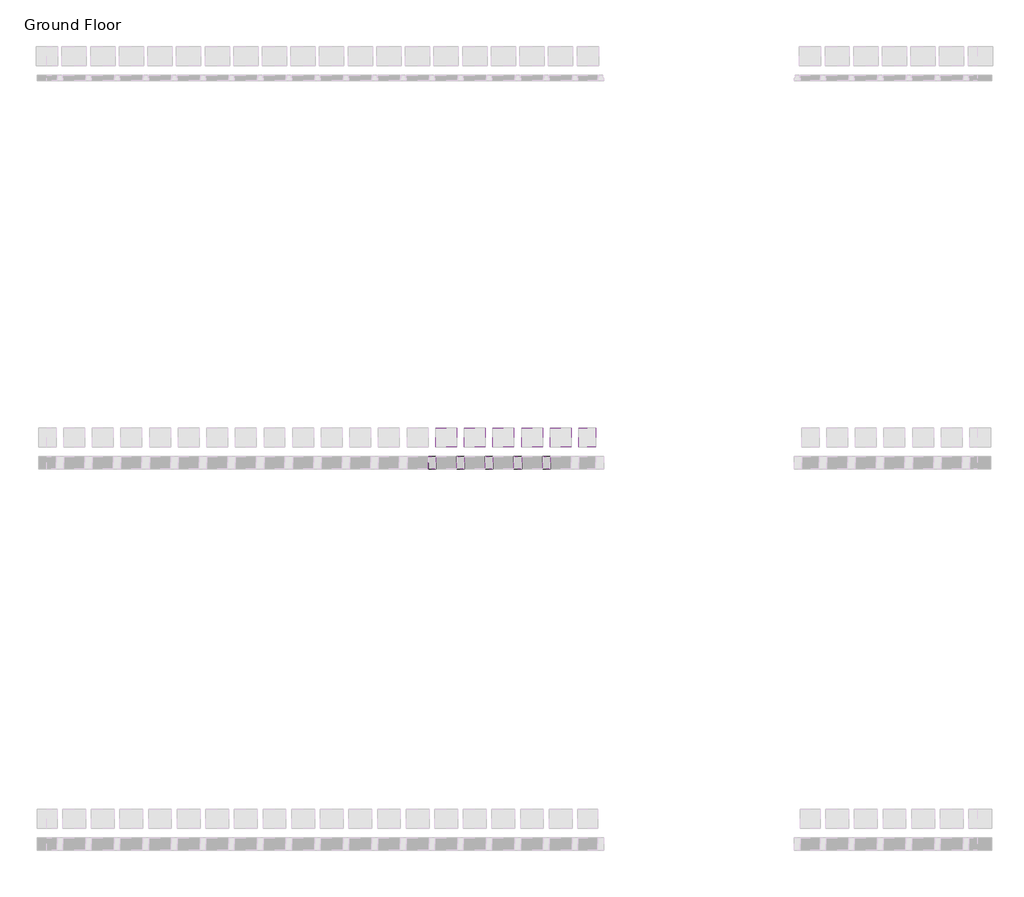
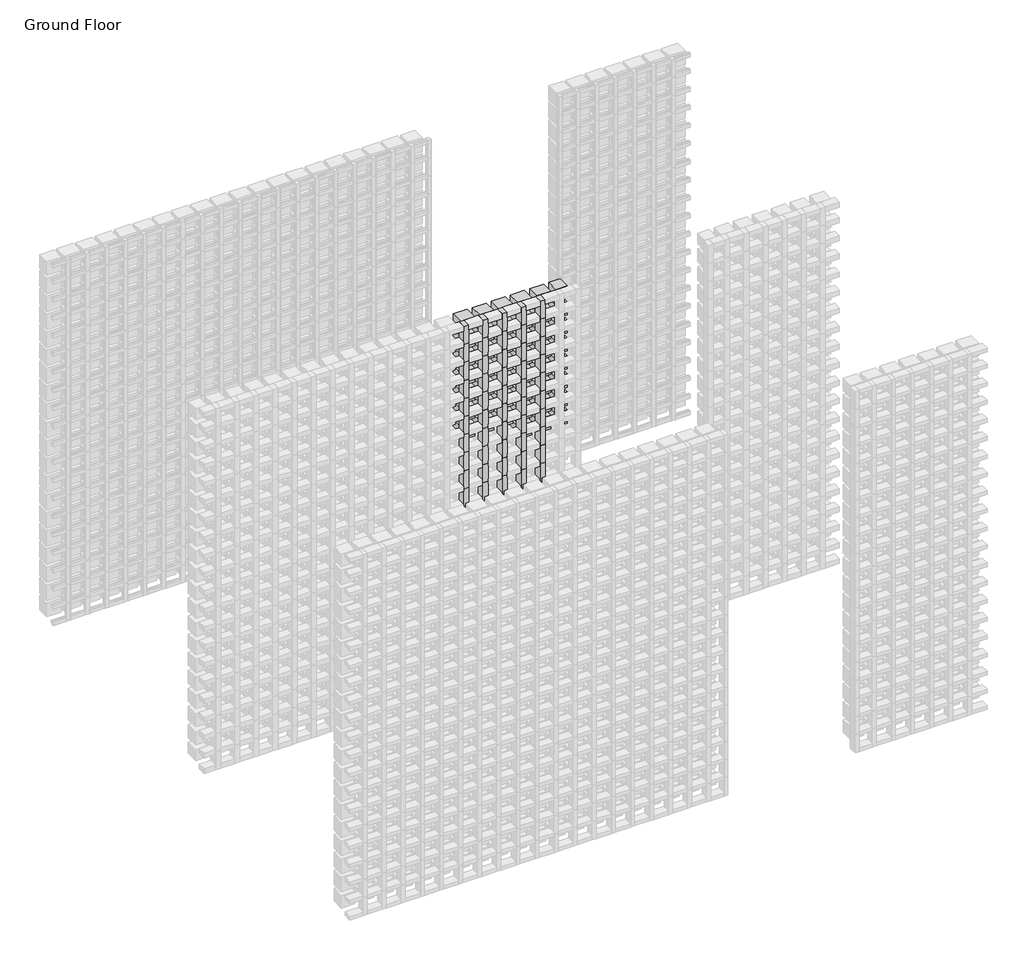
# One storey, part 92 of 350: 97 members, 45 plates.
"""IFC4 building model written with IfcOpenShell, lengths in millimetres."""

from ifc_helpers import new_model, si_unit, origin, place, context, project, spatial, transform, mapped, element, save
from components import rectangular_mullion_655930e9, empty_system_panel_empty_571a4fa0, empty_system_panel_empty_3b500fad, empty_system_panel_empty_1faefc6a, empty_system_panel_empty_b6d7d726

model = new_model("IFC4")

# Units and contexts
model_context = context("Model", 3, world=origin())
ifc_project = project(units=[si_unit("LENGTHUNIT", "METRE", prefix="MILLI")], contexts=[model_context])

# Site, building, storey
site = spatial("IfcSite", under=ifc_project)
building = spatial("IfcBuilding", under=site)
storey = spatial("IfcBuildingStorey", under=building, Name="Ground Floor", Elevation=0.0)

# Members
placement = place(None, origin())
rectangular_mullion_shape = rectangular_mullion_655930e9(model_context)
element("IfcMember", 1, ObjectType="Rectangular Mullion : Batten_Timber_Modinex_Austratus_Grid_Fascia_40x65_AlaskanYellowCedar", at=placement, inside=storey, context=model_context, shape_type="MappedRepresentation", body=[
    mapped(rectangular_mullion_shape, transform((4016.4361642, 40968.2978302, 150.0), x_axis=(1.0, 0.0, 0.0), y_axis=(0.0, -1.0, 0.0), z_axis=(0.0, 0.0, -1.0))),
])
element("IfcMember", 2, ObjectType="Rectangular Mullion : Batten_Timber_Modinex_Austratus_Grid_Fascia_40x65_AlaskanYellowCedar", at=placement, inside=storey, context=model_context, shape_type="MappedRepresentation", body=[
    mapped(rectangular_mullion_shape, transform((4016.4361642, 40968.2978302, 300.0), x_axis=(1.0, 0.0, 0.0), y_axis=(0.0, -1.0, 0.0), z_axis=(0.0, 0.0, -1.0))),
])
element("IfcMember", 3, ObjectType="Rectangular Mullion : Batten_Timber_Modinex_Austratus_Grid_Fascia_40x65_AlaskanYellowCedar", at=placement, inside=storey, context=model_context, shape_type="MappedRepresentation", body=[
    mapped(rectangular_mullion_shape, transform((4016.4361642, 40968.2978302, 450.0), x_axis=(1.0, 0.0, 0.0), y_axis=(0.0, -1.0, 0.0), z_axis=(0.0, 0.0, -1.0))),
])
element("IfcMember", 4, ObjectType="Rectangular Mullion : Batten_Timber_Modinex_Austratus_Grid_Fascia_40x65_AlaskanYellowCedar", at=placement, inside=storey, context=model_context, shape_type="MappedRepresentation", body=[
    mapped(rectangular_mullion_shape, transform((4016.4361642, 40968.2978302, 600.0), x_axis=(1.0, 0.0, 0.0), y_axis=(0.0, -1.0, 0.0), z_axis=(0.0, 0.0, -1.0))),
])
element("IfcMember", 5, ObjectType="Rectangular Mullion : Batten_Timber_Modinex_Austratus_Grid_Fascia_40x65_AlaskanYellowCedar", at=placement, inside=storey, context=model_context, shape_type="MappedRepresentation", body=[
    mapped(rectangular_mullion_shape, transform((4016.4361642, 40968.2978302, 750.0), x_axis=(1.0, 0.0, 0.0), y_axis=(0.0, -1.0, 0.0), z_axis=(0.0, 0.0, -1.0))),
])
element("IfcMember", 6, ObjectType="Rectangular Mullion : Batten_Timber_Modinex_Austratus_Grid_Fascia_40x65_AlaskanYellowCedar", at=placement, inside=storey, context=model_context, shape_type="MappedRepresentation", body=[
    mapped(rectangular_mullion_shape, transform((4016.4361642, 40968.2978302, 900.0), x_axis=(1.0, 0.0, 0.0), y_axis=(0.0, -1.0, 0.0), z_axis=(0.0, 0.0, -1.0))),
])
element("IfcMember", 7, ObjectType="Rectangular Mullion : Batten_Timber_Modinex_Austratus_Grid_Fascia_40x65_AlaskanYellowCedar", at=placement, inside=storey, context=model_context, shape_type="MappedRepresentation", body=[
    mapped(rectangular_mullion_shape, transform((4016.4361642, 40968.2978302, 1050.0), x_axis=(1.0, 0.0, 0.0), y_axis=(0.0, -1.0, 0.0), z_axis=(0.0, 0.0, -1.0))),
])
element("IfcMember", 8, ObjectType="Rectangular Mullion : Batten_Timber_Modinex_Austratus_Grid_Fascia_40x65_AlaskanYellowCedar", at=placement, inside=storey, context=model_context, shape_type="MappedRepresentation", body=[
    mapped(rectangular_mullion_shape, transform((4016.4361642, 40968.2978302, 1200.0), x_axis=(1.0, 0.0, 0.0), y_axis=(0.0, -1.0, 0.0), z_axis=(0.0, 0.0, -1.0))),
])
element("IfcMember", 9, ObjectType="Rectangular Mullion : Batten_Timber_Modinex_Austratus_Grid_Fascia_40x65_AlaskanYellowCedar", at=placement, inside=storey, context=model_context, shape_type="MappedRepresentation", body=[
    mapped(rectangular_mullion_shape, transform((4016.4361642, 40968.2978302, 1350.0), x_axis=(1.0, 0.0, 0.0), y_axis=(0.0, -1.0, 0.0), z_axis=(0.0, 0.0, -1.0))),
])
element("IfcMember", 10, ObjectType="Rectangular Mullion : Batten_Timber_Modinex_Austratus_Grid_Fascia_40x65_AlaskanYellowCedar", at=placement, inside=storey, context=model_context, shape_type="MappedRepresentation", body=[
    mapped(rectangular_mullion_shape, transform((4016.4361642, 40968.2978302, 1500.0), x_axis=(1.0, 0.0, 0.0), y_axis=(0.0, -1.0, 0.0), z_axis=(0.0, 0.0, -1.0))),
])
element("IfcMember", 11, ObjectType="Rectangular Mullion : Batten_Timber_Modinex_Austratus_Grid_Fascia_40x65_AlaskanYellowCedar", at=placement, inside=storey, context=model_context, shape_type="MappedRepresentation", body=[
    mapped(rectangular_mullion_shape, transform((4016.4361642, 40968.2978302, 1650.0), x_axis=(1.0, 0.0, 0.0), y_axis=(0.0, -1.0, 0.0), z_axis=(0.0, 0.0, -1.0))),
])
element("IfcMember", 12, ObjectType="Rectangular Mullion : Batten_Timber_Modinex_Austratus_Grid_Fascia_40x65_AlaskanYellowCedar", at=placement, inside=storey, context=model_context, shape_type="MappedRepresentation", body=[
    mapped(rectangular_mullion_shape, transform((4016.4361642, 40968.2978302, 1800.0), x_axis=(1.0, 0.0, 0.0), y_axis=(0.0, -1.0, 0.0), z_axis=(0.0, 0.0, -1.0))),
])
element("IfcMember", 13, ObjectType="Rectangular Mullion : Batten_Timber_Modinex_Austratus_Grid_Fascia_40x65_AlaskanYellowCedar", at=placement, inside=storey, context=model_context, shape_type="MappedRepresentation", body=[
    mapped(rectangular_mullion_shape, transform((4016.4361642, 40968.2978302, 1950.0), x_axis=(1.0, 0.0, 0.0), y_axis=(0.0, -1.0, 0.0), z_axis=(0.0, 0.0, -1.0))),
])
element("IfcMember", 14, ObjectType="Rectangular Mullion : Batten_Timber_Modinex_Austratus_Grid_Fascia_40x65_AlaskanYellowCedar", at=placement, inside=storey, context=model_context, shape_type="MappedRepresentation", body=[
    mapped(rectangular_mullion_shape, transform((4016.4361642, 40968.2978302, 2100.0), x_axis=(1.0, 0.0, 0.0), y_axis=(0.0, -1.0, 0.0), z_axis=(0.0, 0.0, -1.0))),
])
element("IfcMember", 15, ObjectType="Rectangular Mullion : Batten_Timber_Modinex_Austratus_Grid_Fascia_40x65_AlaskanYellowCedar", at=placement, inside=storey, context=model_context, shape_type="MappedRepresentation", body=[
    mapped(rectangular_mullion_shape, transform((4016.4361642, 40968.2978302, 2250.0), x_axis=(1.0, 0.0, 0.0), y_axis=(0.0, -1.0, 0.0), z_axis=(0.0, 0.0, -1.0))),
])
element("IfcMember", 16, ObjectType="Rectangular Mullion : Batten_Timber_Modinex_Austratus_Grid_Fascia_40x65_AlaskanYellowCedar", at=placement, inside=storey, context=model_context, shape_type="MappedRepresentation", body=[
    mapped(rectangular_mullion_shape, transform((4016.4361642, 40968.2978302, 2400.0), x_axis=(1.0, 0.0, 0.0), y_axis=(0.0, -1.0, 0.0), z_axis=(0.0, 0.0, -1.0))),
])
element("IfcMember", 17, ObjectType="Rectangular Mullion : Batten_Timber_Modinex_Austratus_Grid_Fascia_40x65_AlaskanYellowCedar", at=placement, inside=storey, context=model_context, shape_type="MappedRepresentation", body=[
    mapped(rectangular_mullion_shape, transform((4016.4361642, 40968.2978302, 2550.0), x_axis=(1.0, 0.0, 0.0), y_axis=(0.0, -1.0, 0.0), z_axis=(0.0, 0.0, -1.0))),
])
element("IfcMember", 18, ObjectType="Rectangular Mullion : Batten_Timber_Modinex_Austratus_Grid_Fascia_40x65_AlaskanYellowCedar", at=placement, inside=storey, context=model_context, shape_type="MappedRepresentation", body=[
    mapped(rectangular_mullion_shape, transform((4016.4361642, 40968.2978302, 2700.0), x_axis=(1.0, 0.0, 0.0), y_axis=(0.0, -1.0, 0.0), z_axis=(0.0, 0.0, -1.0))),
])
element("IfcMember", 19, ObjectType="Rectangular Mullion : Batten_Timber_Modinex_Austratus_Grid_Fascia_40x65_AlaskanYellowCedar", at=placement, inside=storey, context=model_context, shape_type="MappedRepresentation", body=[
    mapped(rectangular_mullion_shape, transform((4166.4361642, 40968.2978302, 150.0), x_axis=(1.0, 0.0, 0.0), y_axis=(0.0, -1.0, 0.0), z_axis=(0.0, 0.0, -1.0))),
])
element("IfcMember", 20, ObjectType="Rectangular Mullion : Batten_Timber_Modinex_Austratus_Grid_Fascia_40x65_AlaskanYellowCedar", at=placement, inside=storey, context=model_context, shape_type="MappedRepresentation", body=[
    mapped(rectangular_mullion_shape, transform((4166.4361642, 40968.2978302, 300.0), x_axis=(1.0, 0.0, 0.0), y_axis=(0.0, -1.0, 0.0), z_axis=(0.0, 0.0, -1.0))),
])
element("IfcMember", 21, ObjectType="Rectangular Mullion : Batten_Timber_Modinex_Austratus_Grid_Fascia_40x65_AlaskanYellowCedar", at=placement, inside=storey, context=model_context, shape_type="MappedRepresentation", body=[
    mapped(rectangular_mullion_shape, transform((4166.4361642, 40968.2978302, 450.0), x_axis=(1.0, 0.0, 0.0), y_axis=(0.0, -1.0, 0.0), z_axis=(0.0, 0.0, -1.0))),
])
element("IfcMember", 22, ObjectType="Rectangular Mullion : Batten_Timber_Modinex_Austratus_Grid_Fascia_40x65_AlaskanYellowCedar", at=placement, inside=storey, context=model_context, shape_type="MappedRepresentation", body=[
    mapped(rectangular_mullion_shape, transform((4166.4361642, 40968.2978302, 600.0), x_axis=(1.0, 0.0, 0.0), y_axis=(0.0, -1.0, 0.0), z_axis=(0.0, 0.0, -1.0))),
])
element("IfcMember", 23, ObjectType="Rectangular Mullion : Batten_Timber_Modinex_Austratus_Grid_Fascia_40x65_AlaskanYellowCedar", at=placement, inside=storey, context=model_context, shape_type="MappedRepresentation", body=[
    mapped(rectangular_mullion_shape, transform((4166.4361642, 40968.2978302, 750.0), x_axis=(1.0, 0.0, 0.0), y_axis=(0.0, -1.0, 0.0), z_axis=(0.0, 0.0, -1.0))),
])
element("IfcMember", 24, ObjectType="Rectangular Mullion : Batten_Timber_Modinex_Austratus_Grid_Fascia_40x65_AlaskanYellowCedar", at=placement, inside=storey, context=model_context, shape_type="MappedRepresentation", body=[
    mapped(rectangular_mullion_shape, transform((4166.4361642, 40968.2978302, 900.0), x_axis=(1.0, 0.0, 0.0), y_axis=(0.0, -1.0, 0.0), z_axis=(0.0, 0.0, -1.0))),
])
element("IfcMember", 25, ObjectType="Rectangular Mullion : Batten_Timber_Modinex_Austratus_Grid_Fascia_40x65_AlaskanYellowCedar", at=placement, inside=storey, context=model_context, shape_type="MappedRepresentation", body=[
    mapped(rectangular_mullion_shape, transform((4166.4361642, 40968.2978302, 1050.0), x_axis=(1.0, 0.0, 0.0), y_axis=(0.0, -1.0, 0.0), z_axis=(0.0, 0.0, -1.0))),
])
element("IfcMember", 26, ObjectType="Rectangular Mullion : Batten_Timber_Modinex_Austratus_Grid_Fascia_40x65_AlaskanYellowCedar", at=placement, inside=storey, context=model_context, shape_type="MappedRepresentation", body=[
    mapped(rectangular_mullion_shape, transform((4166.4361642, 40968.2978302, 1200.0), x_axis=(1.0, 0.0, 0.0), y_axis=(0.0, -1.0, 0.0), z_axis=(0.0, 0.0, -1.0))),
])
element("IfcMember", 27, ObjectType="Rectangular Mullion : Batten_Timber_Modinex_Austratus_Grid_Fascia_40x65_AlaskanYellowCedar", at=placement, inside=storey, context=model_context, shape_type="MappedRepresentation", body=[
    mapped(rectangular_mullion_shape, transform((4166.4361642, 40968.2978302, 1350.0), x_axis=(1.0, 0.0, 0.0), y_axis=(0.0, -1.0, 0.0), z_axis=(0.0, 0.0, -1.0))),
])
element("IfcMember", 28, ObjectType="Rectangular Mullion : Batten_Timber_Modinex_Austratus_Grid_Fascia_40x65_AlaskanYellowCedar", at=placement, inside=storey, context=model_context, shape_type="MappedRepresentation", body=[
    mapped(rectangular_mullion_shape, transform((4166.4361642, 40968.2978302, 1500.0), x_axis=(1.0, 0.0, 0.0), y_axis=(0.0, -1.0, 0.0), z_axis=(0.0, 0.0, -1.0))),
])
element("IfcMember", 29, ObjectType="Rectangular Mullion : Batten_Timber_Modinex_Austratus_Grid_Fascia_40x65_AlaskanYellowCedar", at=placement, inside=storey, context=model_context, shape_type="MappedRepresentation", body=[
    mapped(rectangular_mullion_shape, transform((4166.4361642, 40968.2978302, 1650.0), x_axis=(1.0, 0.0, 0.0), y_axis=(0.0, -1.0, 0.0), z_axis=(0.0, 0.0, -1.0))),
])
element("IfcMember", 30, ObjectType="Rectangular Mullion : Batten_Timber_Modinex_Austratus_Grid_Fascia_40x65_AlaskanYellowCedar", at=placement, inside=storey, context=model_context, shape_type="MappedRepresentation", body=[
    mapped(rectangular_mullion_shape, transform((4166.4361642, 40968.2978302, 1800.0), x_axis=(1.0, 0.0, 0.0), y_axis=(0.0, -1.0, 0.0), z_axis=(0.0, 0.0, -1.0))),
])
element("IfcMember", 31, ObjectType="Rectangular Mullion : Batten_Timber_Modinex_Austratus_Grid_Fascia_40x65_AlaskanYellowCedar", at=placement, inside=storey, context=model_context, shape_type="MappedRepresentation", body=[
    mapped(rectangular_mullion_shape, transform((4166.4361642, 40968.2978302, 1950.0), x_axis=(1.0, 0.0, 0.0), y_axis=(0.0, -1.0, 0.0), z_axis=(0.0, 0.0, -1.0))),
])
element("IfcMember", 32, ObjectType="Rectangular Mullion : Batten_Timber_Modinex_Austratus_Grid_Fascia_40x65_AlaskanYellowCedar", at=placement, inside=storey, context=model_context, shape_type="MappedRepresentation", body=[
    mapped(rectangular_mullion_shape, transform((4166.4361642, 40968.2978302, 2100.0), x_axis=(1.0, 0.0, 0.0), y_axis=(0.0, -1.0, 0.0), z_axis=(0.0, 0.0, -1.0))),
])
element("IfcMember", 33, ObjectType="Rectangular Mullion : Batten_Timber_Modinex_Austratus_Grid_Fascia_40x65_AlaskanYellowCedar", at=placement, inside=storey, context=model_context, shape_type="MappedRepresentation", body=[
    mapped(rectangular_mullion_shape, transform((4166.4361642, 40968.2978302, 2250.0), x_axis=(1.0, 0.0, 0.0), y_axis=(0.0, -1.0, 0.0), z_axis=(0.0, 0.0, -1.0))),
])
element("IfcMember", 34, ObjectType="Rectangular Mullion : Batten_Timber_Modinex_Austratus_Grid_Fascia_40x65_AlaskanYellowCedar", at=placement, inside=storey, context=model_context, shape_type="MappedRepresentation", body=[
    mapped(rectangular_mullion_shape, transform((4166.4361642, 40968.2978302, 2400.0), x_axis=(1.0, 0.0, 0.0), y_axis=(0.0, -1.0, 0.0), z_axis=(0.0, 0.0, -1.0))),
])
element("IfcMember", 35, ObjectType="Rectangular Mullion : Batten_Timber_Modinex_Austratus_Grid_Fascia_40x65_AlaskanYellowCedar", at=placement, inside=storey, context=model_context, shape_type="MappedRepresentation", body=[
    mapped(rectangular_mullion_shape, transform((4166.4361642, 40968.2978302, 2550.0), x_axis=(1.0, 0.0, 0.0), y_axis=(0.0, -1.0, 0.0), z_axis=(0.0, 0.0, -1.0))),
])
element("IfcMember", 36, ObjectType="Rectangular Mullion : Batten_Timber_Modinex_Austratus_Grid_Fascia_40x65_AlaskanYellowCedar", at=placement, inside=storey, context=model_context, shape_type="MappedRepresentation", body=[
    mapped(rectangular_mullion_shape, transform((4166.4361642, 40968.2978302, 2700.0), x_axis=(1.0, 0.0, 0.0), y_axis=(0.0, -1.0, 0.0), z_axis=(0.0, 0.0, -1.0))),
])
element("IfcMember", 37, ObjectType="Rectangular Mullion : Batten_Timber_Modinex_Austratus_Grid_Fascia_40x65_AlaskanYellowCedar", at=placement, inside=storey, context=model_context, shape_type="MappedRepresentation", body=[
    mapped(rectangular_mullion_shape, transform((4316.4361642, 40968.2978302, 150.0), x_axis=(1.0, 0.0, 0.0), y_axis=(0.0, -1.0, 0.0), z_axis=(0.0, 0.0, -1.0))),
])
element("IfcMember", 38, ObjectType="Rectangular Mullion : Batten_Timber_Modinex_Austratus_Grid_Fascia_40x65_AlaskanYellowCedar", at=placement, inside=storey, context=model_context, shape_type="MappedRepresentation", body=[
    mapped(rectangular_mullion_shape, transform((4316.4361642, 40968.2978302, 300.0), x_axis=(1.0, 0.0, 0.0), y_axis=(0.0, -1.0, 0.0), z_axis=(0.0, 0.0, -1.0))),
])
element("IfcMember", 39, ObjectType="Rectangular Mullion : Batten_Timber_Modinex_Austratus_Grid_Fascia_40x65_AlaskanYellowCedar", at=placement, inside=storey, context=model_context, shape_type="MappedRepresentation", body=[
    mapped(rectangular_mullion_shape, transform((4316.4361642, 40968.2978302, 450.0), x_axis=(1.0, 0.0, 0.0), y_axis=(0.0, -1.0, 0.0), z_axis=(0.0, 0.0, -1.0))),
])
element("IfcMember", 40, ObjectType="Rectangular Mullion : Batten_Timber_Modinex_Austratus_Grid_Fascia_40x65_AlaskanYellowCedar", at=placement, inside=storey, context=model_context, shape_type="MappedRepresentation", body=[
    mapped(rectangular_mullion_shape, transform((4316.4361642, 40968.2978302, 600.0), x_axis=(1.0, 0.0, 0.0), y_axis=(0.0, -1.0, 0.0), z_axis=(0.0, 0.0, -1.0))),
])
element("IfcMember", 41, ObjectType="Rectangular Mullion : Batten_Timber_Modinex_Austratus_Grid_Fascia_40x65_AlaskanYellowCedar", at=placement, inside=storey, context=model_context, shape_type="MappedRepresentation", body=[
    mapped(rectangular_mullion_shape, transform((4316.4361642, 40968.2978302, 750.0), x_axis=(1.0, 0.0, 0.0), y_axis=(0.0, -1.0, 0.0), z_axis=(0.0, 0.0, -1.0))),
])
element("IfcMember", 42, ObjectType="Rectangular Mullion : Batten_Timber_Modinex_Austratus_Grid_Fascia_40x65_AlaskanYellowCedar", at=placement, inside=storey, context=model_context, shape_type="MappedRepresentation", body=[
    mapped(rectangular_mullion_shape, transform((4316.4361642, 40968.2978302, 900.0), x_axis=(1.0, 0.0, 0.0), y_axis=(0.0, -1.0, 0.0), z_axis=(0.0, 0.0, -1.0))),
])
element("IfcMember", 43, ObjectType="Rectangular Mullion : Batten_Timber_Modinex_Austratus_Grid_Fascia_40x65_AlaskanYellowCedar", at=placement, inside=storey, context=model_context, shape_type="MappedRepresentation", body=[
    mapped(rectangular_mullion_shape, transform((4316.4361642, 40968.2978302, 1050.0), x_axis=(1.0, 0.0, 0.0), y_axis=(0.0, -1.0, 0.0), z_axis=(0.0, 0.0, -1.0))),
])
element("IfcMember", 44, ObjectType="Rectangular Mullion : Batten_Timber_Modinex_Austratus_Grid_Fascia_40x65_AlaskanYellowCedar", at=placement, inside=storey, context=model_context, shape_type="MappedRepresentation", body=[
    mapped(rectangular_mullion_shape, transform((4316.4361642, 40968.2978302, 1200.0), x_axis=(1.0, 0.0, 0.0), y_axis=(0.0, -1.0, 0.0), z_axis=(0.0, 0.0, -1.0))),
])
element("IfcMember", 45, ObjectType="Rectangular Mullion : Batten_Timber_Modinex_Austratus_Grid_Fascia_40x65_AlaskanYellowCedar", at=placement, inside=storey, context=model_context, shape_type="MappedRepresentation", body=[
    mapped(rectangular_mullion_shape, transform((4316.4361642, 40968.2978302, 1350.0), x_axis=(1.0, 0.0, 0.0), y_axis=(0.0, -1.0, 0.0), z_axis=(0.0, 0.0, -1.0))),
])
element("IfcMember", 46, ObjectType="Rectangular Mullion : Batten_Timber_Modinex_Austratus_Grid_Fascia_40x65_AlaskanYellowCedar", at=placement, inside=storey, context=model_context, shape_type="MappedRepresentation", body=[
    mapped(rectangular_mullion_shape, transform((4316.4361642, 40968.2978302, 1500.0), x_axis=(1.0, 0.0, 0.0), y_axis=(0.0, -1.0, 0.0), z_axis=(0.0, 0.0, -1.0))),
])
element("IfcMember", 47, ObjectType="Rectangular Mullion : Batten_Timber_Modinex_Austratus_Grid_Fascia_40x65_AlaskanYellowCedar", at=placement, inside=storey, context=model_context, shape_type="MappedRepresentation", body=[
    mapped(rectangular_mullion_shape, transform((4316.4361642, 40968.2978302, 1650.0), x_axis=(1.0, 0.0, 0.0), y_axis=(0.0, -1.0, 0.0), z_axis=(0.0, 0.0, -1.0))),
])
element("IfcMember", 48, ObjectType="Rectangular Mullion : Batten_Timber_Modinex_Austratus_Grid_Fascia_40x65_AlaskanYellowCedar", at=placement, inside=storey, context=model_context, shape_type="MappedRepresentation", body=[
    mapped(rectangular_mullion_shape, transform((4316.4361642, 40968.2978302, 1800.0), x_axis=(1.0, 0.0, 0.0), y_axis=(0.0, -1.0, 0.0), z_axis=(0.0, 0.0, -1.0))),
])
element("IfcMember", 49, ObjectType="Rectangular Mullion : Batten_Timber_Modinex_Austratus_Grid_Fascia_40x65_AlaskanYellowCedar", at=placement, inside=storey, context=model_context, shape_type="MappedRepresentation", body=[
    mapped(rectangular_mullion_shape, transform((4316.4361642, 40968.2978302, 1950.0), x_axis=(1.0, 0.0, 0.0), y_axis=(0.0, -1.0, 0.0), z_axis=(0.0, 0.0, -1.0))),
])
element("IfcMember", 50, ObjectType="Rectangular Mullion : Batten_Timber_Modinex_Austratus_Grid_Fascia_40x65_AlaskanYellowCedar", at=placement, inside=storey, context=model_context, shape_type="MappedRepresentation", body=[
    mapped(rectangular_mullion_shape, transform((4316.4361642, 40968.2978302, 2100.0), x_axis=(1.0, 0.0, 0.0), y_axis=(0.0, -1.0, 0.0), z_axis=(0.0, 0.0, -1.0))),
])
element("IfcMember", 51, ObjectType="Rectangular Mullion : Batten_Timber_Modinex_Austratus_Grid_Fascia_40x65_AlaskanYellowCedar", at=placement, inside=storey, context=model_context, shape_type="MappedRepresentation", body=[
    mapped(rectangular_mullion_shape, transform((4316.4361642, 40968.2978302, 2250.0), x_axis=(1.0, 0.0, 0.0), y_axis=(0.0, -1.0, 0.0), z_axis=(0.0, 0.0, -1.0))),
])
element("IfcMember", 52, ObjectType="Rectangular Mullion : Batten_Timber_Modinex_Austratus_Grid_Fascia_40x65_AlaskanYellowCedar", at=placement, inside=storey, context=model_context, shape_type="MappedRepresentation", body=[
    mapped(rectangular_mullion_shape, transform((4316.4361642, 40968.2978302, 2400.0), x_axis=(1.0, 0.0, 0.0), y_axis=(0.0, -1.0, 0.0), z_axis=(0.0, 0.0, -1.0))),
])
element("IfcMember", 53, ObjectType="Rectangular Mullion : Batten_Timber_Modinex_Austratus_Grid_Fascia_40x65_AlaskanYellowCedar", at=placement, inside=storey, context=model_context, shape_type="MappedRepresentation", body=[
    mapped(rectangular_mullion_shape, transform((4316.4361642, 40968.2978302, 2550.0), x_axis=(1.0, 0.0, 0.0), y_axis=(0.0, -1.0, 0.0), z_axis=(0.0, 0.0, -1.0))),
])
element("IfcMember", 54, ObjectType="Rectangular Mullion : Batten_Timber_Modinex_Austratus_Grid_Fascia_40x65_AlaskanYellowCedar", at=placement, inside=storey, context=model_context, shape_type="MappedRepresentation", body=[
    mapped(rectangular_mullion_shape, transform((4316.4361642, 40968.2978302, 2700.0), x_axis=(1.0, 0.0, 0.0), y_axis=(0.0, -1.0, 0.0), z_axis=(0.0, 0.0, -1.0))),
])
element("IfcMember", 55, ObjectType="Rectangular Mullion : Batten_Timber_Modinex_Austratus_Grid_Fascia_40x65_AlaskanYellowCedar", at=placement, inside=storey, context=model_context, shape_type="MappedRepresentation", body=[
    mapped(rectangular_mullion_shape, transform((4466.4361642, 40968.2978302, 150.0), x_axis=(1.0, 0.0, 0.0), y_axis=(0.0, -1.0, 0.0), z_axis=(0.0, 0.0, -1.0))),
])
element("IfcMember", 56, ObjectType="Rectangular Mullion : Batten_Timber_Modinex_Austratus_Grid_Fascia_40x65_AlaskanYellowCedar", at=placement, inside=storey, context=model_context, shape_type="MappedRepresentation", body=[
    mapped(rectangular_mullion_shape, transform((4466.4361642, 40968.2978302, 300.0), x_axis=(1.0, 0.0, 0.0), y_axis=(0.0, -1.0, 0.0), z_axis=(0.0, 0.0, -1.0))),
])
element("IfcMember", 57, ObjectType="Rectangular Mullion : Batten_Timber_Modinex_Austratus_Grid_Fascia_40x65_AlaskanYellowCedar", at=placement, inside=storey, context=model_context, shape_type="MappedRepresentation", body=[
    mapped(rectangular_mullion_shape, transform((4466.4361642, 40968.2978302, 450.0), x_axis=(1.0, 0.0, 0.0), y_axis=(0.0, -1.0, 0.0), z_axis=(0.0, 0.0, -1.0))),
])
element("IfcMember", 58, ObjectType="Rectangular Mullion : Batten_Timber_Modinex_Austratus_Grid_Fascia_40x65_AlaskanYellowCedar", at=placement, inside=storey, context=model_context, shape_type="MappedRepresentation", body=[
    mapped(rectangular_mullion_shape, transform((4466.4361642, 40968.2978302, 600.0), x_axis=(1.0, 0.0, 0.0), y_axis=(0.0, -1.0, 0.0), z_axis=(0.0, 0.0, -1.0))),
])
element("IfcMember", 59, ObjectType="Rectangular Mullion : Batten_Timber_Modinex_Austratus_Grid_Fascia_40x65_AlaskanYellowCedar", at=placement, inside=storey, context=model_context, shape_type="MappedRepresentation", body=[
    mapped(rectangular_mullion_shape, transform((4466.4361642, 40968.2978302, 750.0), x_axis=(1.0, 0.0, 0.0), y_axis=(0.0, -1.0, 0.0), z_axis=(0.0, 0.0, -1.0))),
])
element("IfcMember", 60, ObjectType="Rectangular Mullion : Batten_Timber_Modinex_Austratus_Grid_Fascia_40x65_AlaskanYellowCedar", at=placement, inside=storey, context=model_context, shape_type="MappedRepresentation", body=[
    mapped(rectangular_mullion_shape, transform((4466.4361642, 40968.2978302, 900.0), x_axis=(1.0, 0.0, 0.0), y_axis=(0.0, -1.0, 0.0), z_axis=(0.0, 0.0, -1.0))),
])
element("IfcMember", 61, ObjectType="Rectangular Mullion : Batten_Timber_Modinex_Austratus_Grid_Fascia_40x65_AlaskanYellowCedar", at=placement, inside=storey, context=model_context, shape_type="MappedRepresentation", body=[
    mapped(rectangular_mullion_shape, transform((4466.4361642, 40968.2978302, 1050.0), x_axis=(1.0, 0.0, 0.0), y_axis=(0.0, -1.0, 0.0), z_axis=(0.0, 0.0, -1.0))),
])
element("IfcMember", 62, ObjectType="Rectangular Mullion : Batten_Timber_Modinex_Austratus_Grid_Fascia_40x65_AlaskanYellowCedar", at=placement, inside=storey, context=model_context, shape_type="MappedRepresentation", body=[
    mapped(rectangular_mullion_shape, transform((4466.4361642, 40968.2978302, 1200.0), x_axis=(1.0, 0.0, 0.0), y_axis=(0.0, -1.0, 0.0), z_axis=(0.0, 0.0, -1.0))),
])
element("IfcMember", 63, ObjectType="Rectangular Mullion : Batten_Timber_Modinex_Austratus_Grid_Fascia_40x65_AlaskanYellowCedar", at=placement, inside=storey, context=model_context, shape_type="MappedRepresentation", body=[
    mapped(rectangular_mullion_shape, transform((4466.4361642, 40968.2978302, 1350.0), x_axis=(1.0, 0.0, 0.0), y_axis=(0.0, -1.0, 0.0), z_axis=(0.0, 0.0, -1.0))),
])
element("IfcMember", 64, ObjectType="Rectangular Mullion : Batten_Timber_Modinex_Austratus_Grid_Fascia_40x65_AlaskanYellowCedar", at=placement, inside=storey, context=model_context, shape_type="MappedRepresentation", body=[
    mapped(rectangular_mullion_shape, transform((4466.4361642, 40968.2978302, 1500.0), x_axis=(1.0, 0.0, 0.0), y_axis=(0.0, -1.0, 0.0), z_axis=(0.0, 0.0, -1.0))),
])
element("IfcMember", 65, ObjectType="Rectangular Mullion : Batten_Timber_Modinex_Austratus_Grid_Fascia_40x65_AlaskanYellowCedar", at=placement, inside=storey, context=model_context, shape_type="MappedRepresentation", body=[
    mapped(rectangular_mullion_shape, transform((4466.4361642, 40968.2978302, 1650.0), x_axis=(1.0, 0.0, 0.0), y_axis=(0.0, -1.0, 0.0), z_axis=(0.0, 0.0, -1.0))),
])
element("IfcMember", 66, ObjectType="Rectangular Mullion : Batten_Timber_Modinex_Austratus_Grid_Fascia_40x65_AlaskanYellowCedar", at=placement, inside=storey, context=model_context, shape_type="MappedRepresentation", body=[
    mapped(rectangular_mullion_shape, transform((4466.4361642, 40968.2978302, 1800.0), x_axis=(1.0, 0.0, 0.0), y_axis=(0.0, -1.0, 0.0), z_axis=(0.0, 0.0, -1.0))),
])
element("IfcMember", 67, ObjectType="Rectangular Mullion : Batten_Timber_Modinex_Austratus_Grid_Fascia_40x65_AlaskanYellowCedar", at=placement, inside=storey, context=model_context, shape_type="MappedRepresentation", body=[
    mapped(rectangular_mullion_shape, transform((4466.4361642, 40968.2978302, 1950.0), x_axis=(1.0, 0.0, 0.0), y_axis=(0.0, -1.0, 0.0), z_axis=(0.0, 0.0, -1.0))),
])
element("IfcMember", 68, ObjectType="Rectangular Mullion : Batten_Timber_Modinex_Austratus_Grid_Fascia_40x65_AlaskanYellowCedar", at=placement, inside=storey, context=model_context, shape_type="MappedRepresentation", body=[
    mapped(rectangular_mullion_shape, transform((4466.4361642, 40968.2978302, 2100.0), x_axis=(1.0, 0.0, 0.0), y_axis=(0.0, -1.0, 0.0), z_axis=(0.0, 0.0, -1.0))),
])
element("IfcMember", 69, ObjectType="Rectangular Mullion : Batten_Timber_Modinex_Austratus_Grid_Fascia_40x65_AlaskanYellowCedar", at=placement, inside=storey, context=model_context, shape_type="MappedRepresentation", body=[
    mapped(rectangular_mullion_shape, transform((4466.4361642, 40968.2978302, 2250.0), x_axis=(1.0, 0.0, 0.0), y_axis=(0.0, -1.0, 0.0), z_axis=(0.0, 0.0, -1.0))),
])
element("IfcMember", 70, ObjectType="Rectangular Mullion : Batten_Timber_Modinex_Austratus_Grid_Fascia_40x65_AlaskanYellowCedar", at=placement, inside=storey, context=model_context, shape_type="MappedRepresentation", body=[
    mapped(rectangular_mullion_shape, transform((4466.4361642, 40968.2978302, 2400.0), x_axis=(1.0, 0.0, 0.0), y_axis=(0.0, -1.0, 0.0), z_axis=(0.0, 0.0, -1.0))),
])
element("IfcMember", 71, ObjectType="Rectangular Mullion : Batten_Timber_Modinex_Austratus_Grid_Fascia_40x65_AlaskanYellowCedar", at=placement, inside=storey, context=model_context, shape_type="MappedRepresentation", body=[
    mapped(rectangular_mullion_shape, transform((4466.4361642, 40968.2978302, 2550.0), x_axis=(1.0, 0.0, 0.0), y_axis=(0.0, -1.0, 0.0), z_axis=(0.0, 0.0, -1.0))),
])
element("IfcMember", 72, ObjectType="Rectangular Mullion : Batten_Timber_Modinex_Austratus_Grid_Fascia_40x65_AlaskanYellowCedar", at=placement, inside=storey, context=model_context, shape_type="MappedRepresentation", body=[
    mapped(rectangular_mullion_shape, transform((4466.4361642, 40968.2978302, 2700.0), x_axis=(1.0, 0.0, 0.0), y_axis=(0.0, -1.0, 0.0), z_axis=(0.0, 0.0, -1.0))),
])
element("IfcMember", 73, ObjectType="Rectangular Mullion : Batten_Timber_Modinex_Austratus_Grid_Fascia_40x65_AlaskanYellowCedar", at=placement, inside=storey, context=model_context, shape_type="MappedRepresentation", body=[
    mapped(rectangular_mullion_shape, transform((4616.4361642, 40968.2978302, 150.0), x_axis=(1.0, 0.0, 0.0), y_axis=(0.0, -1.0, 0.0), z_axis=(0.0, 0.0, -1.0))),
])
element("IfcMember", 74, ObjectType="Rectangular Mullion : Batten_Timber_Modinex_Austratus_Grid_Fascia_40x65_AlaskanYellowCedar", at=placement, inside=storey, context=model_context, shape_type="MappedRepresentation", body=[
    mapped(rectangular_mullion_shape, transform((4616.4361642, 40968.2978302, 300.0), x_axis=(1.0, 0.0, 0.0), y_axis=(0.0, -1.0, 0.0), z_axis=(0.0, 0.0, -1.0))),
])
element("IfcMember", 75, ObjectType="Rectangular Mullion : Batten_Timber_Modinex_Austratus_Grid_Fascia_40x65_AlaskanYellowCedar", at=placement, inside=storey, context=model_context, shape_type="MappedRepresentation", body=[
    mapped(rectangular_mullion_shape, transform((4616.4361642, 40968.2978302, 450.0), x_axis=(1.0, 0.0, 0.0), y_axis=(0.0, -1.0, 0.0), z_axis=(0.0, 0.0, -1.0))),
])
element("IfcMember", 76, ObjectType="Rectangular Mullion : Batten_Timber_Modinex_Austratus_Grid_Fascia_40x65_AlaskanYellowCedar", at=placement, inside=storey, context=model_context, shape_type="MappedRepresentation", body=[
    mapped(rectangular_mullion_shape, transform((4616.4361642, 40968.2978302, 600.0), x_axis=(1.0, 0.0, 0.0), y_axis=(0.0, -1.0, 0.0), z_axis=(0.0, 0.0, -1.0))),
])
element("IfcMember", 77, ObjectType="Rectangular Mullion : Batten_Timber_Modinex_Austratus_Grid_Fascia_40x65_AlaskanYellowCedar", at=placement, inside=storey, context=model_context, shape_type="MappedRepresentation", body=[
    mapped(rectangular_mullion_shape, transform((4616.4361642, 40968.2978302, 750.0), x_axis=(1.0, 0.0, 0.0), y_axis=(0.0, -1.0, 0.0), z_axis=(0.0, 0.0, -1.0))),
])
element("IfcMember", 78, ObjectType="Rectangular Mullion : Batten_Timber_Modinex_Austratus_Grid_Fascia_40x65_AlaskanYellowCedar", at=placement, inside=storey, context=model_context, shape_type="MappedRepresentation", body=[
    mapped(rectangular_mullion_shape, transform((4616.4361642, 40968.2978302, 900.0), x_axis=(1.0, 0.0, 0.0), y_axis=(0.0, -1.0, 0.0), z_axis=(0.0, 0.0, -1.0))),
])
element("IfcMember", 79, ObjectType="Rectangular Mullion : Batten_Timber_Modinex_Austratus_Grid_Fascia_40x65_AlaskanYellowCedar", at=placement, inside=storey, context=model_context, shape_type="MappedRepresentation", body=[
    mapped(rectangular_mullion_shape, transform((4616.4361642, 40968.2978302, 1050.0), x_axis=(1.0, 0.0, 0.0), y_axis=(0.0, -1.0, 0.0), z_axis=(0.0, 0.0, -1.0))),
])
element("IfcMember", 80, ObjectType="Rectangular Mullion : Batten_Timber_Modinex_Austratus_Grid_Fascia_40x65_AlaskanYellowCedar", at=placement, inside=storey, context=model_context, shape_type="MappedRepresentation", body=[
    mapped(rectangular_mullion_shape, transform((4616.4361642, 40968.2978302, 1200.0), x_axis=(1.0, 0.0, 0.0), y_axis=(0.0, -1.0, 0.0), z_axis=(0.0, 0.0, -1.0))),
])
element("IfcMember", 81, ObjectType="Rectangular Mullion : Batten_Timber_Modinex_Austratus_Grid_Fascia_40x65_AlaskanYellowCedar", at=placement, inside=storey, context=model_context, shape_type="MappedRepresentation", body=[
    mapped(rectangular_mullion_shape, transform((4616.4361642, 40968.2978302, 1350.0), x_axis=(1.0, 0.0, 0.0), y_axis=(0.0, -1.0, 0.0), z_axis=(0.0, 0.0, -1.0))),
])
element("IfcMember", 82, ObjectType="Rectangular Mullion : Batten_Timber_Modinex_Austratus_Grid_Fascia_40x65_AlaskanYellowCedar", at=placement, inside=storey, context=model_context, shape_type="MappedRepresentation", body=[
    mapped(rectangular_mullion_shape, transform((4616.4361642, 40968.2978302, 1500.0), x_axis=(1.0, 0.0, 0.0), y_axis=(0.0, -1.0, 0.0), z_axis=(0.0, 0.0, -1.0))),
])
element("IfcMember", 83, ObjectType="Rectangular Mullion : Batten_Timber_Modinex_Austratus_Grid_Fascia_40x65_AlaskanYellowCedar", at=placement, inside=storey, context=model_context, shape_type="MappedRepresentation", body=[
    mapped(rectangular_mullion_shape, transform((4616.4361642, 40968.2978302, 1650.0), x_axis=(1.0, 0.0, 0.0), y_axis=(0.0, -1.0, 0.0), z_axis=(0.0, 0.0, -1.0))),
])
element("IfcMember", 84, ObjectType="Rectangular Mullion : Batten_Timber_Modinex_Austratus_Grid_Fascia_40x65_AlaskanYellowCedar", at=placement, inside=storey, context=model_context, shape_type="MappedRepresentation", body=[
    mapped(rectangular_mullion_shape, transform((4616.4361642, 40968.2978302, 1800.0), x_axis=(1.0, 0.0, 0.0), y_axis=(0.0, -1.0, 0.0), z_axis=(0.0, 0.0, -1.0))),
])
element("IfcMember", 85, ObjectType="Rectangular Mullion : Batten_Timber_Modinex_Austratus_Grid_Fascia_40x65_AlaskanYellowCedar", at=placement, inside=storey, context=model_context, shape_type="MappedRepresentation", body=[
    mapped(rectangular_mullion_shape, transform((4616.4361642, 40968.2978302, 1950.0), x_axis=(1.0, 0.0, 0.0), y_axis=(0.0, -1.0, 0.0), z_axis=(0.0, 0.0, -1.0))),
])
element("IfcMember", 86, ObjectType="Rectangular Mullion : Batten_Timber_Modinex_Austratus_Grid_Fascia_40x65_AlaskanYellowCedar", at=placement, inside=storey, context=model_context, shape_type="MappedRepresentation", body=[
    mapped(rectangular_mullion_shape, transform((4616.4361642, 40968.2978302, 2100.0), x_axis=(1.0, 0.0, 0.0), y_axis=(0.0, -1.0, 0.0), z_axis=(0.0, 0.0, -1.0))),
])
element("IfcMember", 87, ObjectType="Rectangular Mullion : Batten_Timber_Modinex_Austratus_Grid_Fascia_40x65_AlaskanYellowCedar", at=placement, inside=storey, context=model_context, shape_type="MappedRepresentation", body=[
    mapped(rectangular_mullion_shape, transform((4616.4361642, 40968.2978302, 2250.0), x_axis=(1.0, 0.0, 0.0), y_axis=(0.0, -1.0, 0.0), z_axis=(0.0, 0.0, -1.0))),
])
element("IfcMember", 88, ObjectType="Rectangular Mullion : Batten_Timber_Modinex_Austratus_Grid_Fascia_40x65_AlaskanYellowCedar", at=placement, inside=storey, context=model_context, shape_type="MappedRepresentation", body=[
    mapped(rectangular_mullion_shape, transform((4616.4361642, 40968.2978302, 2400.0), x_axis=(1.0, 0.0, 0.0), y_axis=(0.0, -1.0, 0.0), z_axis=(0.0, 0.0, -1.0))),
])
element("IfcMember", 89, ObjectType="Rectangular Mullion : Batten_Timber_Modinex_Austratus_Grid_Fascia_40x65_AlaskanYellowCedar", at=placement, inside=storey, context=model_context, shape_type="MappedRepresentation", body=[
    mapped(rectangular_mullion_shape, transform((4616.4361642, 40968.2978302, 2550.0), x_axis=(1.0, 0.0, 0.0), y_axis=(0.0, -1.0, 0.0), z_axis=(0.0, 0.0, -1.0))),
])
element("IfcMember", 90, ObjectType="Rectangular Mullion : Batten_Timber_Modinex_Austratus_Grid_Fascia_40x65_AlaskanYellowCedar", at=placement, inside=storey, context=model_context, shape_type="MappedRepresentation", body=[
    mapped(rectangular_mullion_shape, transform((4616.4361642, 40968.2978302, 2700.0), x_axis=(1.0, 0.0, 0.0), y_axis=(0.0, -1.0, 0.0), z_axis=(0.0, 0.0, -1.0))),
])
element("IfcMember", 91, ObjectType="Rectangular Mullion : Batten_Timber_Modinex_Austratus_Grid_Fascia_40x65_AlaskanYellowCedar", at=placement, inside=storey, context=model_context, shape_type="MappedRepresentation", body=[
    mapped(rectangular_mullion_shape, transform((4766.4361642, 40968.2978302, 150.0), x_axis=(1.0, 0.0, 0.0), y_axis=(0.0, -1.0, 0.0), z_axis=(0.0, 0.0, -1.0))),
])
element("IfcMember", 92, ObjectType="Rectangular Mullion : Batten_Timber_Modinex_Austratus_Grid_Fascia_40x65_AlaskanYellowCedar", at=placement, inside=storey, context=model_context, shape_type="MappedRepresentation", body=[
    mapped(rectangular_mullion_shape, transform((4766.4361642, 40968.2978302, 300.0), x_axis=(1.0, 0.0, 0.0), y_axis=(0.0, -1.0, 0.0), z_axis=(0.0, 0.0, -1.0))),
])
element("IfcMember", 93, ObjectType="Rectangular Mullion : Batten_Timber_Modinex_Austratus_Grid_Fascia_40x65_AlaskanYellowCedar", at=placement, inside=storey, context=model_context, shape_type="MappedRepresentation", body=[
    mapped(rectangular_mullion_shape, transform((4016.4361642, 40968.2978302, 2850.0), x_axis=(1.0, 0.0, 0.0), y_axis=(0.0, -1.0, 0.0), z_axis=(0.0, 0.0, -1.0))),
])
element("IfcMember", 94, ObjectType="Rectangular Mullion : Batten_Timber_Modinex_Austratus_Grid_Fascia_40x65_AlaskanYellowCedar", at=placement, inside=storey, context=model_context, shape_type="MappedRepresentation", body=[
    mapped(rectangular_mullion_shape, transform((4166.4361642, 40968.2978302, 2850.0), x_axis=(1.0, 0.0, 0.0), y_axis=(0.0, -1.0, 0.0), z_axis=(0.0, 0.0, -1.0))),
])
element("IfcMember", 95, ObjectType="Rectangular Mullion : Batten_Timber_Modinex_Austratus_Grid_Fascia_40x65_AlaskanYellowCedar", at=placement, inside=storey, context=model_context, shape_type="MappedRepresentation", body=[
    mapped(rectangular_mullion_shape, transform((4316.4361642, 40968.2978302, 2850.0), x_axis=(1.0, 0.0, 0.0), y_axis=(0.0, -1.0, 0.0), z_axis=(0.0, 0.0, -1.0))),
])
element("IfcMember", 96, ObjectType="Rectangular Mullion : Batten_Timber_Modinex_Austratus_Grid_Fascia_40x65_AlaskanYellowCedar", at=placement, inside=storey, context=model_context, shape_type="MappedRepresentation", body=[
    mapped(rectangular_mullion_shape, transform((4466.4361642, 40968.2978302, 2850.0), x_axis=(1.0, 0.0, 0.0), y_axis=(0.0, -1.0, 0.0), z_axis=(0.0, 0.0, -1.0))),
])
element("IfcMember", 97, ObjectType="Rectangular Mullion : Batten_Timber_Modinex_Austratus_Grid_Fascia_40x65_AlaskanYellowCedar", at=placement, inside=storey, context=model_context, shape_type="MappedRepresentation", body=[
    mapped(rectangular_mullion_shape, transform((4616.4361642, 40968.2978302, 2850.0), x_axis=(1.0, 0.0, 0.0), y_axis=(0.0, -1.0, 0.0), z_axis=(0.0, 0.0, -1.0))),
])

# Plates
empty_system_panel_empty_shape = empty_system_panel_empty_571a4fa0(model_context)
element("IfcPlate", 98, ObjectType="Empty System Panel : Empty", at=placement, inside=storey, context=model_context, shape_type="MappedRepresentation", body=[
    mapped(empty_system_panel_empty_shape, transform((4831.4361641, 40968.2978302, 2870.0), x_axis=(1.0, 0.0, 0.0), y_axis=(0.0, 1.0, 0.0), z_axis=(0.0, 0.0, 1.0))),
])
empty_system_panel_empty_2_shape = empty_system_panel_empty_3b500fad(model_context)
element("IfcPlate", 99, ObjectType="Empty System Panel : Empty", at=placement, inside=storey, context=model_context, shape_type="MappedRepresentation", body=[
    mapped(empty_system_panel_empty_2_shape, transform((4541.4361642, 40968.2978302, 1820.0), x_axis=(1.0, 0.0, 0.0), y_axis=(0.0, 1.0, 0.0), z_axis=(0.0, 0.0, 1.0))),
])
element("IfcPlate", 100, ObjectType="Empty System Panel : Empty", at=placement, inside=storey, context=model_context, shape_type="MappedRepresentation", body=[
    mapped(empty_system_panel_empty_2_shape, transform((4691.4361642, 40968.2978302, 1820.0), x_axis=(1.0, 0.0, 0.0), y_axis=(0.0, 1.0, 0.0), z_axis=(0.0, 0.0, 1.0))),
])
element("IfcPlate", 101, ObjectType="Empty System Panel : Empty", at=placement, inside=storey, context=model_context, shape_type="MappedRepresentation", body=[
    mapped(empty_system_panel_empty_2_shape, transform((4091.4361642, 40968.2978302, 1970.0), x_axis=(1.0, 0.0, 0.0), y_axis=(0.0, 1.0, 0.0), z_axis=(0.0, 0.0, 1.0))),
])
element("IfcPlate", 102, ObjectType="Empty System Panel : Empty", at=placement, inside=storey, context=model_context, shape_type="MappedRepresentation", body=[
    mapped(empty_system_panel_empty_2_shape, transform((4241.4361642, 40968.2978302, 1970.0), x_axis=(1.0, 0.0, 0.0), y_axis=(0.0, 1.0, 0.0), z_axis=(0.0, 0.0, 1.0))),
])
element("IfcPlate", 103, ObjectType="Empty System Panel : Empty", at=placement, inside=storey, context=model_context, shape_type="MappedRepresentation", body=[
    mapped(empty_system_panel_empty_2_shape, transform((4391.4361642, 40968.2978302, 1970.0), x_axis=(1.0, 0.0, 0.0), y_axis=(0.0, 1.0, 0.0), z_axis=(0.0, 0.0, 1.0))),
])
element("IfcPlate", 104, ObjectType="Empty System Panel : Empty", at=placement, inside=storey, context=model_context, shape_type="MappedRepresentation", body=[
    mapped(empty_system_panel_empty_2_shape, transform((4541.4361642, 40968.2978302, 1970.0), x_axis=(1.0, 0.0, 0.0), y_axis=(0.0, 1.0, 0.0), z_axis=(0.0, 0.0, 1.0))),
])
element("IfcPlate", 105, ObjectType="Empty System Panel : Empty", at=placement, inside=storey, context=model_context, shape_type="MappedRepresentation", body=[
    mapped(empty_system_panel_empty_2_shape, transform((4691.4361642, 40968.2978302, 1970.0), x_axis=(1.0, 0.0, 0.0), y_axis=(0.0, 1.0, 0.0), z_axis=(0.0, 0.0, 1.0))),
])
element("IfcPlate", 106, ObjectType="Empty System Panel : Empty", at=placement, inside=storey, context=model_context, shape_type="MappedRepresentation", body=[
    mapped(empty_system_panel_empty_2_shape, transform((4091.4361642, 40968.2978302, 2120.0), x_axis=(1.0, 0.0, 0.0), y_axis=(0.0, 1.0, 0.0), z_axis=(0.0, 0.0, 1.0))),
])
element("IfcPlate", 107, ObjectType="Empty System Panel : Empty", at=placement, inside=storey, context=model_context, shape_type="MappedRepresentation", body=[
    mapped(empty_system_panel_empty_2_shape, transform((4241.4361642, 40968.2978302, 2120.0), x_axis=(1.0, 0.0, 0.0), y_axis=(0.0, 1.0, 0.0), z_axis=(0.0, 0.0, 1.0))),
])
element("IfcPlate", 108, ObjectType="Empty System Panel : Empty", at=placement, inside=storey, context=model_context, shape_type="MappedRepresentation", body=[
    mapped(empty_system_panel_empty_2_shape, transform((4391.4361642, 40968.2978302, 2120.0), x_axis=(1.0, 0.0, 0.0), y_axis=(0.0, 1.0, 0.0), z_axis=(0.0, 0.0, 1.0))),
])
element("IfcPlate", 109, ObjectType="Empty System Panel : Empty", at=placement, inside=storey, context=model_context, shape_type="MappedRepresentation", body=[
    mapped(empty_system_panel_empty_2_shape, transform((4541.4361642, 40968.2978302, 2120.0), x_axis=(1.0, 0.0, 0.0), y_axis=(0.0, 1.0, 0.0), z_axis=(0.0, 0.0, 1.0))),
])
element("IfcPlate", 110, ObjectType="Empty System Panel : Empty", at=placement, inside=storey, context=model_context, shape_type="MappedRepresentation", body=[
    mapped(empty_system_panel_empty_2_shape, transform((4691.4361642, 40968.2978302, 2120.0), x_axis=(1.0, 0.0, 0.0), y_axis=(0.0, 1.0, 0.0), z_axis=(0.0, 0.0, 1.0))),
])
element("IfcPlate", 111, ObjectType="Empty System Panel : Empty", at=placement, inside=storey, context=model_context, shape_type="MappedRepresentation", body=[
    mapped(empty_system_panel_empty_2_shape, transform((4091.4361642, 40968.2978302, 2270.0), x_axis=(1.0, 0.0, 0.0), y_axis=(0.0, 1.0, 0.0), z_axis=(0.0, 0.0, 1.0))),
])
element("IfcPlate", 112, ObjectType="Empty System Panel : Empty", at=placement, inside=storey, context=model_context, shape_type="MappedRepresentation", body=[
    mapped(empty_system_panel_empty_2_shape, transform((4241.4361642, 40968.2978302, 2270.0), x_axis=(1.0, 0.0, 0.0), y_axis=(0.0, 1.0, 0.0), z_axis=(0.0, 0.0, 1.0))),
])
element("IfcPlate", 113, ObjectType="Empty System Panel : Empty", at=placement, inside=storey, context=model_context, shape_type="MappedRepresentation", body=[
    mapped(empty_system_panel_empty_2_shape, transform((4391.4361642, 40968.2978302, 2270.0), x_axis=(1.0, 0.0, 0.0), y_axis=(0.0, 1.0, 0.0), z_axis=(0.0, 0.0, 1.0))),
])
element("IfcPlate", 114, ObjectType="Empty System Panel : Empty", at=placement, inside=storey, context=model_context, shape_type="MappedRepresentation", body=[
    mapped(empty_system_panel_empty_2_shape, transform((4541.4361642, 40968.2978302, 2270.0), x_axis=(1.0, 0.0, 0.0), y_axis=(0.0, 1.0, 0.0), z_axis=(0.0, 0.0, 1.0))),
])
element("IfcPlate", 115, ObjectType="Empty System Panel : Empty", at=placement, inside=storey, context=model_context, shape_type="MappedRepresentation", body=[
    mapped(empty_system_panel_empty_2_shape, transform((4691.4361642, 40968.2978302, 2270.0), x_axis=(1.0, 0.0, 0.0), y_axis=(0.0, 1.0, 0.0), z_axis=(0.0, 0.0, 1.0))),
])
element("IfcPlate", 116, ObjectType="Empty System Panel : Empty", at=placement, inside=storey, context=model_context, shape_type="MappedRepresentation", body=[
    mapped(empty_system_panel_empty_2_shape, transform((4091.4361642, 40968.2978302, 2420.0), x_axis=(1.0, 0.0, 0.0), y_axis=(0.0, 1.0, 0.0), z_axis=(0.0, 0.0, 1.0))),
])
element("IfcPlate", 117, ObjectType="Empty System Panel : Empty", at=placement, inside=storey, context=model_context, shape_type="MappedRepresentation", body=[
    mapped(empty_system_panel_empty_2_shape, transform((4241.4361642, 40968.2978302, 2420.0), x_axis=(1.0, 0.0, 0.0), y_axis=(0.0, 1.0, 0.0), z_axis=(0.0, 0.0, 1.0))),
])
element("IfcPlate", 118, ObjectType="Empty System Panel : Empty", at=placement, inside=storey, context=model_context, shape_type="MappedRepresentation", body=[
    mapped(empty_system_panel_empty_2_shape, transform((4391.4361642, 40968.2978302, 2420.0), x_axis=(1.0, 0.0, 0.0), y_axis=(0.0, 1.0, 0.0), z_axis=(0.0, 0.0, 1.0))),
])
element("IfcPlate", 119, ObjectType="Empty System Panel : Empty", at=placement, inside=storey, context=model_context, shape_type="MappedRepresentation", body=[
    mapped(empty_system_panel_empty_2_shape, transform((4541.4361642, 40968.2978302, 2420.0), x_axis=(1.0, 0.0, 0.0), y_axis=(0.0, 1.0, 0.0), z_axis=(0.0, 0.0, 1.0))),
])
element("IfcPlate", 120, ObjectType="Empty System Panel : Empty", at=placement, inside=storey, context=model_context, shape_type="MappedRepresentation", body=[
    mapped(empty_system_panel_empty_2_shape, transform((4691.4361642, 40968.2978302, 2420.0), x_axis=(1.0, 0.0, 0.0), y_axis=(0.0, 1.0, 0.0), z_axis=(0.0, 0.0, 1.0))),
])
element("IfcPlate", 121, ObjectType="Empty System Panel : Empty", at=placement, inside=storey, context=model_context, shape_type="MappedRepresentation", body=[
    mapped(empty_system_panel_empty_2_shape, transform((4091.4361642, 40968.2978302, 2570.0), x_axis=(1.0, 0.0, 0.0), y_axis=(0.0, 1.0, 0.0), z_axis=(0.0, 0.0, 1.0))),
])
element("IfcPlate", 122, ObjectType="Empty System Panel : Empty", at=placement, inside=storey, context=model_context, shape_type="MappedRepresentation", body=[
    mapped(empty_system_panel_empty_2_shape, transform((4241.4361642, 40968.2978302, 2570.0), x_axis=(1.0, 0.0, 0.0), y_axis=(0.0, 1.0, 0.0), z_axis=(0.0, 0.0, 1.0))),
])
element("IfcPlate", 123, ObjectType="Empty System Panel : Empty", at=placement, inside=storey, context=model_context, shape_type="MappedRepresentation", body=[
    mapped(empty_system_panel_empty_2_shape, transform((4391.4361642, 40968.2978302, 2570.0), x_axis=(1.0, 0.0, 0.0), y_axis=(0.0, 1.0, 0.0), z_axis=(0.0, 0.0, 1.0))),
])
element("IfcPlate", 124, ObjectType="Empty System Panel : Empty", at=placement, inside=storey, context=model_context, shape_type="MappedRepresentation", body=[
    mapped(empty_system_panel_empty_2_shape, transform((4541.4361642, 40968.2978302, 2570.0), x_axis=(1.0, 0.0, 0.0), y_axis=(0.0, 1.0, 0.0), z_axis=(0.0, 0.0, 1.0))),
])
element("IfcPlate", 125, ObjectType="Empty System Panel : Empty", at=placement, inside=storey, context=model_context, shape_type="MappedRepresentation", body=[
    mapped(empty_system_panel_empty_2_shape, transform((4691.4361642, 40968.2978302, 2570.0), x_axis=(1.0, 0.0, 0.0), y_axis=(0.0, 1.0, 0.0), z_axis=(0.0, 0.0, 1.0))),
])
element("IfcPlate", 126, ObjectType="Empty System Panel : Empty", at=placement, inside=storey, context=model_context, shape_type="MappedRepresentation", body=[
    mapped(empty_system_panel_empty_2_shape, transform((4091.4361642, 40968.2978302, 2720.0), x_axis=(1.0, 0.0, 0.0), y_axis=(0.0, 1.0, 0.0), z_axis=(0.0, 0.0, 1.0))),
])
element("IfcPlate", 127, ObjectType="Empty System Panel : Empty", at=placement, inside=storey, context=model_context, shape_type="MappedRepresentation", body=[
    mapped(empty_system_panel_empty_2_shape, transform((4241.4361642, 40968.2978302, 2720.0), x_axis=(1.0, 0.0, 0.0), y_axis=(0.0, 1.0, 0.0), z_axis=(0.0, 0.0, 1.0))),
])
element("IfcPlate", 128, ObjectType="Empty System Panel : Empty", at=placement, inside=storey, context=model_context, shape_type="MappedRepresentation", body=[
    mapped(empty_system_panel_empty_2_shape, transform((4391.4361642, 40968.2978302, 2720.0), x_axis=(1.0, 0.0, 0.0), y_axis=(0.0, 1.0, 0.0), z_axis=(0.0, 0.0, 1.0))),
])
element("IfcPlate", 129, ObjectType="Empty System Panel : Empty", at=placement, inside=storey, context=model_context, shape_type="MappedRepresentation", body=[
    mapped(empty_system_panel_empty_2_shape, transform((4541.4361642, 40968.2978302, 2720.0), x_axis=(1.0, 0.0, 0.0), y_axis=(0.0, 1.0, 0.0), z_axis=(0.0, 0.0, 1.0))),
])
element("IfcPlate", 130, ObjectType="Empty System Panel : Empty", at=placement, inside=storey, context=model_context, shape_type="MappedRepresentation", body=[
    mapped(empty_system_panel_empty_2_shape, transform((4691.4361642, 40968.2978302, 2720.0), x_axis=(1.0, 0.0, 0.0), y_axis=(0.0, 1.0, 0.0), z_axis=(0.0, 0.0, 1.0))),
])
empty_system_panel_empty_3_shape = empty_system_panel_empty_1faefc6a(model_context)
element("IfcPlate", 131, ObjectType="Empty System Panel : Empty", at=placement, inside=storey, context=model_context, shape_type="MappedRepresentation", body=[
    mapped(empty_system_panel_empty_3_shape, transform((4091.4361642, 40968.2978302, 2870.0), x_axis=(1.0, 0.0, 0.0), y_axis=(0.0, 1.0, 0.0), z_axis=(0.0, 0.0, 1.0))),
])
element("IfcPlate", 132, ObjectType="Empty System Panel : Empty", at=placement, inside=storey, context=model_context, shape_type="MappedRepresentation", body=[
    mapped(empty_system_panel_empty_3_shape, transform((4241.4361642, 40968.2978302, 2870.0), x_axis=(1.0, 0.0, 0.0), y_axis=(0.0, 1.0, 0.0), z_axis=(0.0, 0.0, 1.0))),
])
element("IfcPlate", 133, ObjectType="Empty System Panel : Empty", at=placement, inside=storey, context=model_context, shape_type="MappedRepresentation", body=[
    mapped(empty_system_panel_empty_3_shape, transform((4391.4361642, 40968.2978302, 2870.0), x_axis=(1.0, 0.0, 0.0), y_axis=(0.0, 1.0, 0.0), z_axis=(0.0, 0.0, 1.0))),
])
element("IfcPlate", 134, ObjectType="Empty System Panel : Empty", at=placement, inside=storey, context=model_context, shape_type="MappedRepresentation", body=[
    mapped(empty_system_panel_empty_3_shape, transform((4541.4361642, 40968.2978302, 2870.0), x_axis=(1.0, 0.0, 0.0), y_axis=(0.0, 1.0, 0.0), z_axis=(0.0, 0.0, 1.0))),
])
element("IfcPlate", 135, ObjectType="Empty System Panel : Empty", at=placement, inside=storey, context=model_context, shape_type="MappedRepresentation", body=[
    mapped(empty_system_panel_empty_3_shape, transform((4691.4361642, 40968.2978302, 2870.0), x_axis=(1.0, 0.0, 0.0), y_axis=(0.0, 1.0, 0.0), z_axis=(0.0, 0.0, 1.0))),
])
empty_system_panel_empty_4_shape = empty_system_panel_empty_b6d7d726(model_context)
element("IfcPlate", 136, ObjectType="Empty System Panel : Empty", at=placement, inside=storey, context=model_context, shape_type="MappedRepresentation", body=[
    mapped(empty_system_panel_empty_4_shape, transform((4831.4361641, 40968.2978302, 1820.0), x_axis=(1.0, 0.0, 0.0), y_axis=(0.0, 1.0, 0.0), z_axis=(0.0, 0.0, 1.0))),
])
element("IfcPlate", 137, ObjectType="Empty System Panel : Empty", at=placement, inside=storey, context=model_context, shape_type="MappedRepresentation", body=[
    mapped(empty_system_panel_empty_4_shape, transform((4831.4361641, 40968.2978302, 1970.0), x_axis=(1.0, 0.0, 0.0), y_axis=(0.0, 1.0, 0.0), z_axis=(0.0, 0.0, 1.0))),
])
element("IfcPlate", 138, ObjectType="Empty System Panel : Empty", at=placement, inside=storey, context=model_context, shape_type="MappedRepresentation", body=[
    mapped(empty_system_panel_empty_4_shape, transform((4831.4361641, 40968.2978302, 2120.0), x_axis=(1.0, 0.0, 0.0), y_axis=(0.0, 1.0, 0.0), z_axis=(0.0, 0.0, 1.0))),
])
element("IfcPlate", 139, ObjectType="Empty System Panel : Empty", at=placement, inside=storey, context=model_context, shape_type="MappedRepresentation", body=[
    mapped(empty_system_panel_empty_4_shape, transform((4831.4361641, 40968.2978302, 2270.0), x_axis=(1.0, 0.0, 0.0), y_axis=(0.0, 1.0, 0.0), z_axis=(0.0, 0.0, 1.0))),
])
element("IfcPlate", 140, ObjectType="Empty System Panel : Empty", at=placement, inside=storey, context=model_context, shape_type="MappedRepresentation", body=[
    mapped(empty_system_panel_empty_4_shape, transform((4831.4361641, 40968.2978302, 2420.0), x_axis=(1.0, 0.0, 0.0), y_axis=(0.0, 1.0, 0.0), z_axis=(0.0, 0.0, 1.0))),
])
element("IfcPlate", 141, ObjectType="Empty System Panel : Empty", at=placement, inside=storey, context=model_context, shape_type="MappedRepresentation", body=[
    mapped(empty_system_panel_empty_4_shape, transform((4831.4361641, 40968.2978302, 2570.0), x_axis=(1.0, 0.0, 0.0), y_axis=(0.0, 1.0, 0.0), z_axis=(0.0, 0.0, 1.0))),
])
element("IfcPlate", 142, ObjectType="Empty System Panel : Empty", at=placement, inside=storey, context=model_context, shape_type="MappedRepresentation", body=[
    mapped(empty_system_panel_empty_4_shape, transform((4831.4361641, 40968.2978302, 2720.0), x_axis=(1.0, 0.0, 0.0), y_axis=(0.0, 1.0, 0.0), z_axis=(0.0, 0.0, 1.0))),
])

save(model, "model.ifc")
